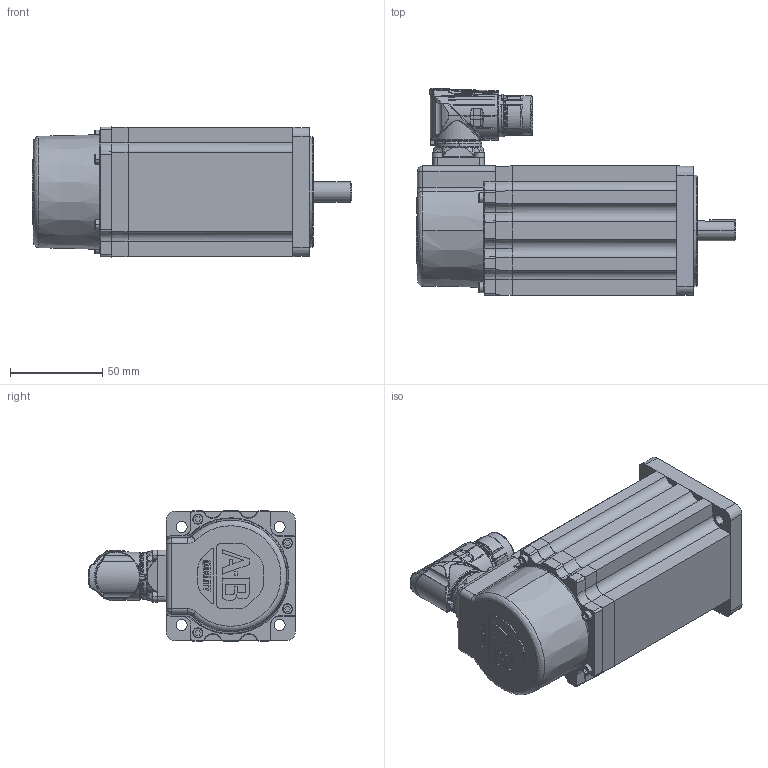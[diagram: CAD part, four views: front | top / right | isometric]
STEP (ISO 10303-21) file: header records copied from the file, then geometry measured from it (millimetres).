
FILE_DESCRIPTION (( 'STEP AP214' ), '1' );
FILE_NAME ('Rockwell Automation-$PARTNUMBER.STEP', '2014-07-25T13:40:24', ( 'Windows User' ), ( '' ), 'SwSTEP 2.0', 'SolidWorks 2014', '' );
FILE_SCHEMA (( 'AUTOMOTIVE_DESIGN' ));
Length unit declared in the file: inch
Products named in the file (29): Rockwell Automation-$PARTNUMBER_Rockwell Automation-VPF-x0752x-xJx2xx_PRT0006; Rockwell Automation-$PARTNUMBER_Rockwell Automation-VPF-x0752x-xJx2xx_FRONT_without key_1; Rockwell Automation-$PARTNUMBER_Rockwell Automation-VPF-x0752x-xJx2xx_vpf-075_752; Rockwell Automation-$PARTNUMBER_Rockwell Automation-VPF-x0752x-xJx2xx_FRONT_1; Rockwell Automation-$PARTNUMBER_Rockwell Automation-VPF-x0752x-xJx2xx_FRONT_withkey_075_shaft_Shaft_J_2_2; Rockwell Automation-$PARTNUMBER_Rockwell Automation-VPF-x0752x-xJx2xx_tab; Rockwell Automation-$PARTNUMBER_Rockwell Automation-VPF-x0752x-xJx2xx_0011-G402_ANY_2; Rockwell Automation-$PARTNUMBER_Rockwell Automation-VPF-x0752x-xJx2xx_10000169222_ANY_1; Rockwell Automation-$PARTNUMBER_Rockwell Automation-VPF-x0752x-xJx2xx_REAR_ASM_ANY_ASM; Rockwell Automation-$PARTNUMBER_Rockwell Automation-VPF-x0752x-xJx2xx_10000206536_ASM_ANY_ASM_1; Rockwell Automation-$PARTNUMBER_Rockwell Automation-VPF-x0752x-xJx2xx_PRT0002; Rockwell Automation-$PARTNUMBER_Rockwell Automation-VPF-x0752x-xJx2xx_10000206535_AF0_ANY_1; Rockwell Automation-$PARTNUMBER_Rockwell Automation-VPF-x0752x-xJx2xx_PRT0001; Rockwell Automation-$PARTNUMBER_Rockwell Automation-VPF-x0752x-xJx2xx_10000210273_AF2_ANY_1; Rockwell Automation-$PARTNUMBER_Rockwell Automation-VPF-x0752x-xJx2xx_10000220495_ASM_1_ANY_ASM; Rockwell Automation-$PARTNUMBER_Rockwell Automation-VPF-x0752x-xJx2xx_10000213398_ANY_1; Rockwell Automation-$PARTNUMBER_Rockwell Automation-VPF-x0752x-xJx2xx_10000206533_AF0_ANY; Rockwell Automation-$PARTNUMBER_Rockwell Automation-VPF-x0752x-xJx2xx_vpl-middle-075_0752; Rockwell Automation-$PARTNUMBER_Rockwell Automation-VPF-x0752x-xJx2xx_10000220495_ASM_ANY; Rockwell Automation-$PARTNUMBER_Rockwell Automation-VPF-x0752x-xJx2xx_10000205606_AF31_ANY; Rockwell Automation-$PARTNUMBER; Rockwell Automation-$PARTNUMBER_Rockwell Automation-VPF-x0752x-xJx2xx_10000218021_ANY; Rockwell Automation-$PARTNUMBER_Rockwell Automation-VPF-x0752x-xJx2xx_91290A115_ANY; Rockwell Automation-$PARTNUMBER_Rockwell Automation-VPF-x0752x-xJx2xx_ASM0003_ASM; Rockwell Automation-$PARTNUMBER_Rockwell Automation-VPF-x0752x-xJx2xx_ASM0004_ASM; Rockwell Automation-$PARTNUMBER_Rockwell Automation-VPF-x0752x-xJx2xx_PRT0008_1; Rockwell Automation-$PARTNUMBER_Rockwell Automation-VPF-x0752x-xJx2xx_PRT0005; Rockwell Automation-$PARTNUMBER_Rockwell Automation-VPF-x0752x-xJx2xx_PRT0007; Rockwell Automation-$PARTNUMBER_Rockwell Automation-VPF-x0752x-xJx2xx_PRT0008
Assembly tree (41 placements, depth 6):
  Rockwell Automation-$PARTNUMBER_Rockwell Automation-VPF-x0752x-xJx2xx_tab
  Rockwell Automation-$PARTNUMBER
    Rockwell Automation-$PARTNUMBER_Rockwell Automation-VPF-x0752x-xJx2xx_vpf-075_752
      Rockwell Automation-$PARTNUMBER_Rockwell Automation-VPF-x0752x-xJx2xx_vpl-middle-075_0752
      Rockwell Automation-$PARTNUMBER_Rockwell Automation-VPF-x0752x-xJx2xx_FRONT_without key_1
        Rockwell Automation-$PARTNUMBER_Rockwell Automation-VPF-x0752x-xJx2xx_FRONT_1
          Rockwell Automation-$PARTNUMBER_Rockwell Automation-VPF-x0752x-xJx2xx_10000213398_ANY_1
          Rockwell Automation-$PARTNUMBER_Rockwell Automation-VPF-x0752x-xJx2xx_10000206536_ASM_ANY_ASM_1
            Rockwell Automation-$PARTNUMBER_Rockwell Automation-VPF-x0752x-xJx2xx_10000210273_AF2_ANY_1
            Rockwell Automation-$PARTNUMBER_Rockwell Automation-VPF-x0752x-xJx2xx_10000206535_AF0_ANY_1
          Rockwell Automation-$PARTNUMBER_Rockwell Automation-VPF-x0752x-xJx2xx_10000169222_ANY_1  x4
      Rockwell Automation-$PARTNUMBER_Rockwell Automation-VPF-x0752x-xJx2xx_REAR_ASM_ANY_ASM
        Rockwell Automation-$PARTNUMBER_Rockwell Automation-VPF-x0752x-xJx2xx_ASM0003_ASM
          Rockwell Automation-$PARTNUMBER_Rockwell Automation-VPF-x0752x-xJx2xx_PRT0006
          Rockwell Automation-$PARTNUMBER_Rockwell Automation-VPF-x0752x-xJx2xx_ASM0004_ASM
            Rockwell Automation-$PARTNUMBER_Rockwell Automation-VPF-x0752x-xJx2xx_PRT0008
            Rockwell Automation-$PARTNUMBER_Rockwell Automation-VPF-x0752x-xJx2xx_PRT0007
            Rockwell Automation-$PARTNUMBER_Rockwell Automation-VPF-x0752x-xJx2xx_PRT0005  x4
            Rockwell Automation-$PARTNUMBER_Rockwell Automation-VPF-x0752x-xJx2xx_PRT0008_1
        Rockwell Automation-$PARTNUMBER_Rockwell Automation-VPF-x0752x-xJx2xx_91290A115_ANY  x4
        Rockwell Automation-$PARTNUMBER_Rockwell Automation-VPF-x0752x-xJx2xx_10000218021_ANY  x2
        Rockwell Automation-$PARTNUMBER_Rockwell Automation-VPF-x0752x-xJx2xx_10000220495_ASM_1_ANY_ASM
          Rockwell Automation-$PARTNUMBER_Rockwell Automation-VPF-x0752x-xJx2xx_10000205606_AF31_ANY
          Rockwell Automation-$PARTNUMBER_Rockwell Automation-VPF-x0752x-xJx2xx_10000220495_ASM_ANY  x2
          Rockwell Automation-$PARTNUMBER_Rockwell Automation-VPF-x0752x-xJx2xx_10000206533_AF0_ANY
        Rockwell Automation-$PARTNUMBER_Rockwell Automation-VPF-x0752x-xJx2xx_PRT0001  x4
        Rockwell Automation-$PARTNUMBER_Rockwell Automation-VPF-x0752x-xJx2xx_PRT0002
      Rockwell Automation-$PARTNUMBER_Rockwell Automation-VPF-x0752x-xJx2xx_0011-G402_ANY_2
      Rockwell Automation-$PARTNUMBER_Rockwell Automation-VPF-x0752x-xJx2xx_FRONT_withkey_075_shaft_Shaft_J_2_2
Bounding box: 172.9 x 112.19 x 70.31 mm (x, y, z)
Volume: 239954.7 mm3; surface area: 162088.8 mm2
Topology: 28 solids, 44 shells, 2961 faces, 8040 edges, 5182 vertices
Faces by surface type: cylinder 994, plane 912, bspline 631, cone 416, torus 8
Entity records: 141241 total; most frequent: CARTESIAN_POINT 71909, ORIENTED_EDGE 12751, DIRECTION 8150, EDGE_CURVE 6389, VERTEX_POINT 4196, AXIS2_PLACEMENT_3D 3049, B_SPLINE_CURVE_WITH_KNOTS 2966, EDGE_LOOP 2502
